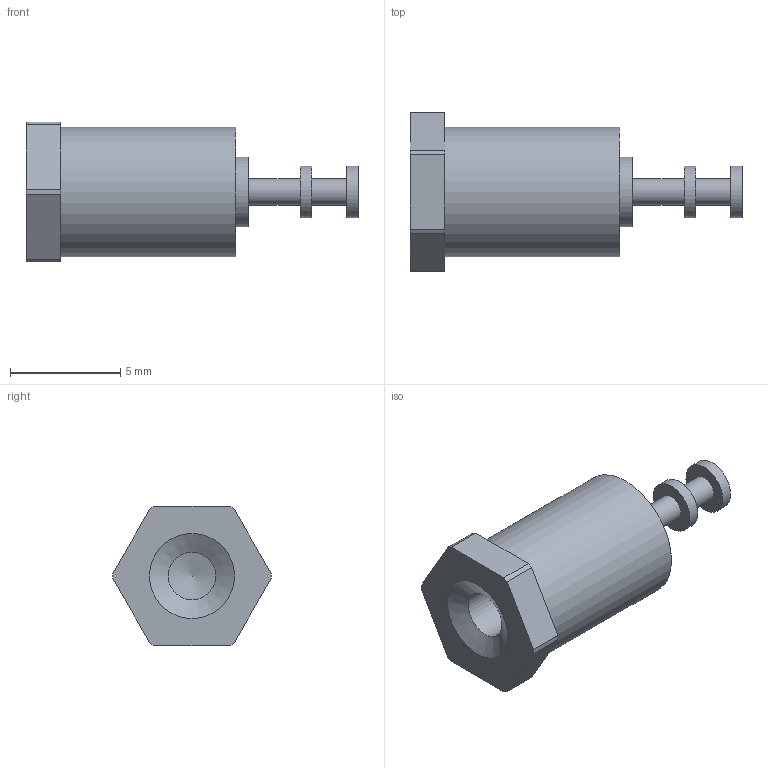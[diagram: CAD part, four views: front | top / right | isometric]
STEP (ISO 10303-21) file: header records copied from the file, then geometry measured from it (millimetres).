
FILE_DESCRIPTION(/* description */ (''),/* implementation_level */ '2;1');
FILE_NAME(/* name */ '\\Snap1\dwgs\Customer 3D Models\572\572-4826-01 Customer model.stp',/* time_stamp */ '2017-01-10T15:14:36+00:00',/* author */ ('paulk'),/* organization */ (''),/* preprocessor_version */ 'ST-DEVELOPER v15.2',/* originating_system */ 'Autodesk Inventor 2014',/* authorisation */ '');
FILE_SCHEMA (('CONFIG_CONTROL_DESIGN'));
Length unit declared in the file: millimetre
Products named in the file (1): 572-4826-01 Customer model
Bounding box: 15.09 x 7.2 x 6.35 mm (x, y, z)
Volume: 263 mm3; surface area: 327.9 mm2
Topology: 1 solids, 1 shells, 29 faces, 61 edges, 40 vertices
Faces by surface type: plane 14, cylinder 13, cone 2
Full cylindrical faces by diameter (mm): 1.194 x2, 2.156 x1, 2.362 x2, 3.175 x1, 5.893 x1
Entity records: 810 total; most frequent: DIRECTION 138, CARTESIAN_POINT 120, ORIENTED_EDGE 102, AXIS2_PLACEMENT_3D 57, EDGE_CURVE 51, EDGE_LOOP 44, VERTEX_POINT 39, STYLED_ITEM 30
